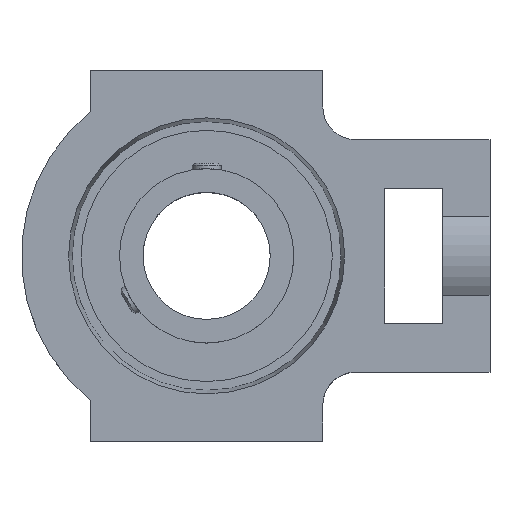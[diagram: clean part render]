
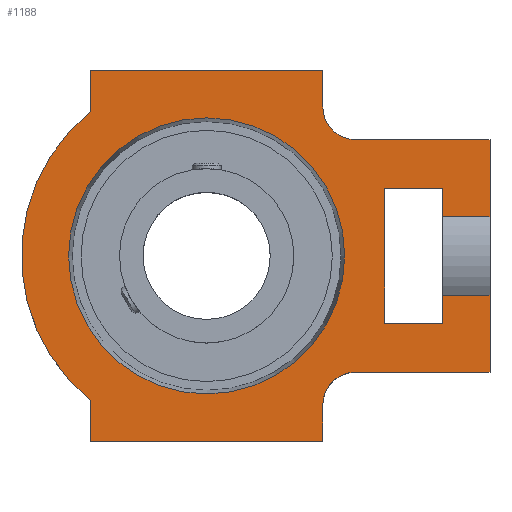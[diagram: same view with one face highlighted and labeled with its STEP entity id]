
A CAD part, top view. The second image highlights one B-rep face of the part: STEP entity #1188.
In plain terms, the highlighted planar face has unit normal (0, 0, 1).
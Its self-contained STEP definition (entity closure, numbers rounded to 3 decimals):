
#123=CARTESIAN_POINT('',(14.76,-42.433,15.0));
#124=VERTEX_POINT('',#123);
#131=CARTESIAN_POINT('',(5.76,-51.433,15.0));
#132=VERTEX_POINT('',#131);
#133=CARTESIAN_POINT('',(14.76,-51.433,15.0));
#134=DIRECTION('',(0.0,0.0,1.0));
#135=DIRECTION('',(-0.707,0.707,0.0));
#136=AXIS2_PLACEMENT_3D('',#133,#134,#135);
#137=CIRCLE('',#136,9.0);
#138=EDGE_CURVE('',#124,#132,#137,.T.);
#163=CARTESIAN_POINT('',(51.76,-42.433,15.0));
#164=VERTEX_POINT('',#163);
#171=CARTESIAN_POINT('',(51.76,-42.433,15.0));
#172=DIRECTION('',(-1.0,0.0,0.0));
#173=VECTOR('',#172,37.);
#174=LINE('',#171,#173);
#175=EDGE_CURVE('',#164,#124,#174,.T.);
#196=CARTESIAN_POINT('',(5.76,30.567,15.0));
#197=VERTEX_POINT('',#196);
#204=CARTESIAN_POINT('',(14.76,21.567,15.0));
#205=VERTEX_POINT('',#204);
#206=CARTESIAN_POINT('',(14.76,30.567,15.0));
#207=DIRECTION('',(0.0,0.0,1.0));
#208=DIRECTION('',(-0.707,-0.707,0.0));
#209=AXIS2_PLACEMENT_3D('',#206,#207,#208);
#210=CIRCLE('',#209,9.0);
#211=EDGE_CURVE('',#197,#205,#210,.T.);
#268=CARTESIAN_POINT('',(5.76,40.567,15.0));
#269=VERTEX_POINT('',#268);
#276=CARTESIAN_POINT('',(5.76,40.567,15.0));
#277=DIRECTION('',(0.0,-1.0,0.0));
#278=VECTOR('',#277,10.);
#279=LINE('',#276,#278);
#280=EDGE_CURVE('',#269,#197,#279,.T.);
#423=CARTESIAN_POINT('',(-58.24,-61.433,15.0));
#424=VERTEX_POINT('',#423);
#431=CARTESIAN_POINT('',(-58.24,-50.144,15.0));
#432=VERTEX_POINT('',#431);
#433=CARTESIAN_POINT('',(-58.24,-61.433,15.0));
#434=DIRECTION('',(0.0,1.0,0.0));
#435=VECTOR('',#434,11.289);
#436=LINE('',#433,#435);
#437=EDGE_CURVE('',#424,#432,#436,.T.);
#470=CARTESIAN_POINT('',(5.76,-61.433,15.0));
#471=VERTEX_POINT('',#470);
#478=CARTESIAN_POINT('',(5.76,-61.433,15.0));
#479=DIRECTION('',(-1.0,0.0,0.0));
#480=VECTOR('',#479,64.0);
#481=LINE('',#478,#480);
#482=EDGE_CURVE('',#471,#424,#481,.T.);
#597=CARTESIAN_POINT('',(-58.24,40.567,15.0));
#598=VERTEX_POINT('',#597);
#605=CARTESIAN_POINT('',(-58.24,40.567,15.0));
#606=DIRECTION('',(1.0,0.0,0.0));
#607=VECTOR('',#606,64.0);
#608=LINE('',#605,#607);
#609=EDGE_CURVE('',#598,#269,#608,.T.);
#632=CARTESIAN_POINT('',(-58.24,29.279,15.0));
#633=VERTEX_POINT('',#632);
#640=CARTESIAN_POINT('',(-58.24,29.279,15.0));
#641=DIRECTION('',(0.0,1.0,0.0));
#642=VECTOR('',#641,11.289);
#643=LINE('',#640,#642);
#644=EDGE_CURVE('',#633,#598,#643,.T.);
#715=CARTESIAN_POINT('',(-64.24,-10.433,15.));
#716=VERTEX_POINT('',#715);
#717=CARTESIAN_POINT('',(-26.24,-10.433,15.0));
#718=DIRECTION('',(0.0,0.0,-1.0));
#719=DIRECTION('',(-1.0,0.0,0.0));
#720=AXIS2_PLACEMENT_3D('',#717,#718,#719);
#721=CIRCLE('',#720,38.0);
#722=EDGE_CURVE('',#716,#716,#721,.T.);
#777=CARTESIAN_POINT('',(38.76,0.395,15.0));
#778=VERTEX_POINT('',#777);
#779=CARTESIAN_POINT('',(38.76,-21.261,15.0));
#780=VERTEX_POINT('',#779);
#788=CARTESIAN_POINT('',(51.76,-21.261,15.0));
#789=VERTEX_POINT('',#788);
#790=CARTESIAN_POINT('',(51.76,-21.261,15.0));
#791=DIRECTION('',(-1.0,0.0,0.0));
#792=VECTOR('',#791,13.0);
#793=LINE('',#790,#792);
#794=EDGE_CURVE('',#789,#780,#793,.T.);
#796=CARTESIAN_POINT('',(51.76,0.395,15.0));
#797=VERTEX_POINT('',#796);
#805=CARTESIAN_POINT('',(38.76,0.395,15.0));
#806=DIRECTION('',(1.0,0.0,0.0));
#807=VECTOR('',#806,13.0);
#808=LINE('',#805,#807);
#809=EDGE_CURVE('',#778,#797,#808,.T.);
#847=CARTESIAN_POINT('',(38.76,8.067,15.0));
#848=VERTEX_POINT('',#847);
#849=CARTESIAN_POINT('',(38.76,8.067,15.0));
#850=DIRECTION('',(0.0,-1.0,0.0));
#851=VECTOR('',#850,7.672);
#852=LINE('',#849,#851);
#853=EDGE_CURVE('',#848,#778,#852,.T.);
#878=CARTESIAN_POINT('',(38.76,-28.933,15.0));
#879=VERTEX_POINT('',#878);
#886=CARTESIAN_POINT('',(38.76,-21.261,15.0));
#887=DIRECTION('',(0.0,-1.0,0.0));
#888=VECTOR('',#887,7.672);
#889=LINE('',#886,#888);
#890=EDGE_CURVE('',#780,#879,#889,.T.);
#904=CARTESIAN_POINT('',(22.76,-28.933,15.0));
#905=VERTEX_POINT('',#904);
#906=CARTESIAN_POINT('',(38.76,-28.933,15.0));
#907=DIRECTION('',(-1.0,0.0,0.0));
#908=VECTOR('',#907,16.);
#909=LINE('',#906,#908);
#910=EDGE_CURVE('',#879,#905,#909,.T.);
#935=CARTESIAN_POINT('',(22.76,8.067,15.0));
#936=VERTEX_POINT('',#935);
#937=CARTESIAN_POINT('',(22.76,-28.933,15.0));
#938=DIRECTION('',(0.0,1.0,0.0));
#939=VECTOR('',#938,37.0);
#940=LINE('',#937,#939);
#941=EDGE_CURVE('',#905,#936,#940,.T.);
#966=CARTESIAN_POINT('',(22.76,8.067,15.0));
#967=DIRECTION('',(1.0,0.0,0.0));
#968=VECTOR('',#967,16.);
#969=LINE('',#966,#968);
#970=EDGE_CURVE('',#936,#848,#969,.T.);
#1055=CARTESIAN_POINT('',(51.76,21.567,15.0));
#1056=VERTEX_POINT('',#1055);
#1057=CARTESIAN_POINT('',(14.76,21.567,15.0));
#1058=DIRECTION('',(1.0,0.0,0.0));
#1059=VECTOR('',#1058,37.);
#1060=LINE('',#1057,#1059);
#1061=EDGE_CURVE('',#205,#1056,#1060,.T.);
#1078=CARTESIAN_POINT('',(51.76,21.567,15.0));
#1079=DIRECTION('',(0.0,-1.0,0.0));
#1080=VECTOR('',#1079,21.172);
#1081=LINE('',#1078,#1080);
#1082=EDGE_CURVE('',#1056,#797,#1081,.T.);
#1085=CARTESIAN_POINT('',(51.76,-21.261,15.0));
#1086=DIRECTION('',(0.0,-1.0,0.0));
#1087=VECTOR('',#1086,21.172);
#1088=LINE('',#1085,#1087);
#1089=EDGE_CURVE('',#789,#164,#1088,.T.);
#1108=CARTESIAN_POINT('',(5.76,-51.433,15.0));
#1109=DIRECTION('',(0.0,-1.0,0.0));
#1110=VECTOR('',#1109,10.);
#1111=LINE('',#1108,#1110);
#1112=EDGE_CURVE('',#132,#471,#1111,.T.);
#1145=CARTESIAN_POINT('',(-26.24,-10.433,15.0));
#1146=DIRECTION('',(0.0,0.0,-1.0));
#1147=DIRECTION('',(-0.627,0.779,0.0));
#1148=AXIS2_PLACEMENT_3D('',#1145,#1146,#1147);
#1149=CIRCLE('',#1148,51.0);
#1150=EDGE_CURVE('',#432,#633,#1149,.T.);
#1158=CARTESIAN_POINT('',(-11.07,-10.433,15.0));
#1159=DIRECTION('',(0.0,0.0,1.0));
#1160=DIRECTION('',(1.0,0.0,0.0));
#1161=AXIS2_PLACEMENT_3D('',#1158,#1159,#1160);
#1162=PLANE('',#1161);
#1163=ORIENTED_EDGE('',*,*,#794,.T.);
#1164=ORIENTED_EDGE('',*,*,#890,.T.);
#1165=ORIENTED_EDGE('',*,*,#910,.T.);
#1166=ORIENTED_EDGE('',*,*,#941,.T.);
#1167=ORIENTED_EDGE('',*,*,#970,.T.);
#1168=ORIENTED_EDGE('',*,*,#853,.T.);
#1169=ORIENTED_EDGE('',*,*,#809,.T.);
#1170=ORIENTED_EDGE('',*,*,#1082,.F.);
#1171=ORIENTED_EDGE('',*,*,#1061,.F.);
#1172=ORIENTED_EDGE('',*,*,#211,.F.);
#1173=ORIENTED_EDGE('',*,*,#280,.F.);
#1174=ORIENTED_EDGE('',*,*,#609,.F.);
#1175=ORIENTED_EDGE('',*,*,#644,.F.);
#1176=ORIENTED_EDGE('',*,*,#1150,.F.);
#1177=ORIENTED_EDGE('',*,*,#437,.F.);
#1178=ORIENTED_EDGE('',*,*,#482,.F.);
#1179=ORIENTED_EDGE('',*,*,#1112,.F.);
#1180=ORIENTED_EDGE('',*,*,#138,.F.);
#1181=ORIENTED_EDGE('',*,*,#175,.F.);
#1182=ORIENTED_EDGE('',*,*,#1089,.F.);
#1183=EDGE_LOOP('',(#1163,#1164,#1165,#1166,#1167,#1168,#1169,#1170,#1171,#1172,#1173,#1174,#1175,#1176,#1177,#1178,#1179,#1180,#1181,#1182));
#1184=FACE_OUTER_BOUND('',#1183,.T.);
#1185=ORIENTED_EDGE('',*,*,#722,.T.);
#1186=EDGE_LOOP('',(#1185));
#1187=FACE_BOUND('',#1186,.T.);
#1188=ADVANCED_FACE('',(#1184,#1187),#1162,.T.);
